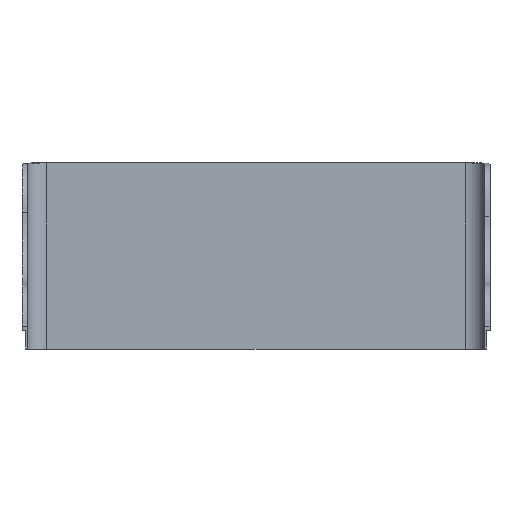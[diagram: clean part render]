
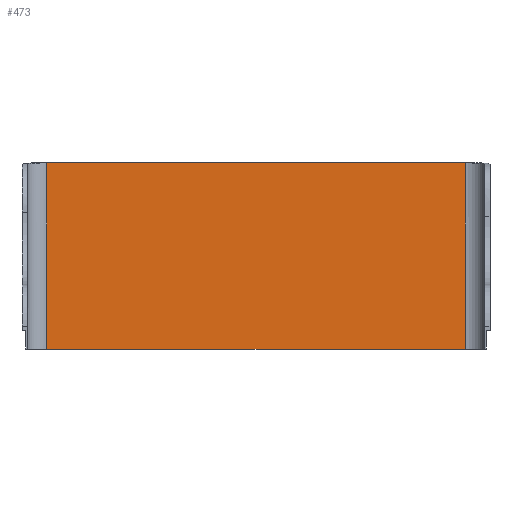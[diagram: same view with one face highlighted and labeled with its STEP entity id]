
A CAD part, front view. The second image highlights one B-rep face of the part: STEP entity #473.
In plain terms, the highlighted planar face has unit normal (0, -1, 0).
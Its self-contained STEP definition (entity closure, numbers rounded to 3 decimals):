
#23=B_SPLINE_CURVE_WITH_KNOTS('',3,(#812,#813,#814,#815),.UNSPECIFIED.,
 .F.,.F.,(4,4),(0.05,20.05),.UNSPECIFIED.);
#34=PLANE('',#516);
#51=FACE_OUTER_BOUND('',#77,.T.);
#77=EDGE_LOOP('',(#344,#345,#346,#347));
#107=LINE('',#849,#146);
#108=LINE('',#853,#147);
#109=LINE('',#854,#148);
#146=VECTOR('',#575,10.);
#147=VECTOR('',#580,10.);
#148=VECTOR('',#581,10.);
#210=VERTEX_POINT('',#796);
#211=VERTEX_POINT('',#811);
#213=VERTEX_POINT('',#848);
#214=VERTEX_POINT('',#852);
#260=EDGE_CURVE('',#210,#211,#23,.T.);
#264=EDGE_CURVE('',#213,#211,#107,.T.);
#266=EDGE_CURVE('',#214,#210,#108,.T.);
#267=EDGE_CURVE('',#214,#213,#109,.T.);
#344=ORIENTED_EDGE('',*,*,#260,.F.);
#345=ORIENTED_EDGE('',*,*,#266,.F.);
#346=ORIENTED_EDGE('',*,*,#267,.T.);
#347=ORIENTED_EDGE('',*,*,#264,.T.);
#473=ADVANCED_FACE('',(#51),#34,.T.);
#516=AXIS2_PLACEMENT_3D('',#851,#578,#579);
#575=DIRECTION('',(0.,0.,1.));
#578=DIRECTION('center_axis',(0.,-1.,0.));
#579=DIRECTION('ref_axis',(1.,0.,0.));
#580=DIRECTION('',(0.,0.,1.));
#581=DIRECTION('',(1.,0.,0.));
#796=CARTESIAN_POINT('',(10.,79.4,88.986));
#811=CARTESIAN_POINT('',(210.,79.4,88.986));
#812=CARTESIAN_POINT('Ctrl Pts',(10.,79.4,88.986));
#813=CARTESIAN_POINT('Ctrl Pts',(76.667,79.4,88.986));
#814=CARTESIAN_POINT('Ctrl Pts',(143.333,79.4,88.986));
#815=CARTESIAN_POINT('Ctrl Pts',(210.,79.4,88.986));
#848=CARTESIAN_POINT('',(210.,79.4,0.));
#849=CARTESIAN_POINT('',(210.,79.4,0.));
#851=CARTESIAN_POINT('Origin',(10.,79.4,0.));
#852=CARTESIAN_POINT('',(10.,79.4,0.));
#853=CARTESIAN_POINT('',(10.,79.4,0.));
#854=CARTESIAN_POINT('',(10.,79.4,0.));
